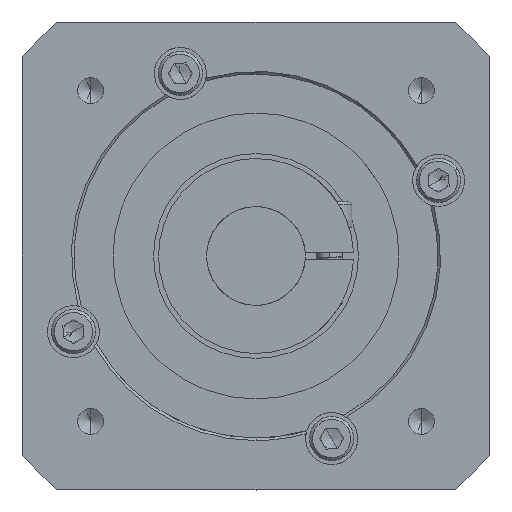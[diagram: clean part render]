
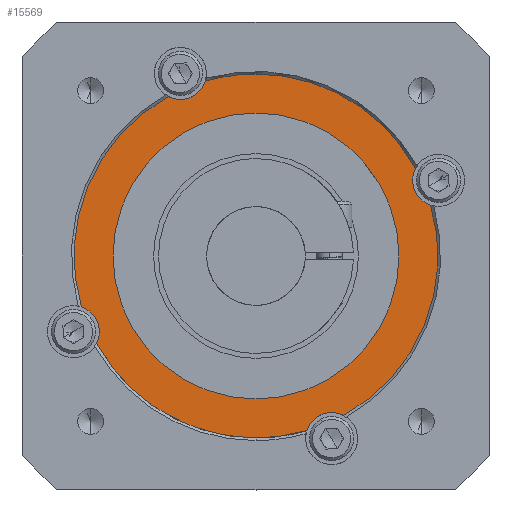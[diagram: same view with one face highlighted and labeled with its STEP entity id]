
A CAD part, front view. The second image highlights one B-rep face of the part: STEP entity #15569.
In plain terms, the highlighted planar face has unit normal (0, -1, 0).
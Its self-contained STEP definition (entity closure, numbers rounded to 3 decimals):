
#87 = EDGE_CURVE ( 'NONE', #16349, #16376, #7423, .T. ) ;
#5128 = CARTESIAN_POINT ( 'NONE',  ( 33.608, 6., 9.772 ) ) ;
#5132 = CARTESIAN_POINT ( 'NONE',  ( 9.772, 6., -33.608 ) ) ;
#5152 = DIRECTION ( 'NONE',  ( 0., 0., -1. ) ) ;
#5153 = DIRECTION ( 'NONE',  ( 0., -1., 0. ) ) ;
#5155 = CIRCLE ( 'NONE', #5176, 5. ) ;
#5162 = CARTESIAN_POINT ( 'NONE',  ( 35.107, 6., 14.542 ) ) ;
#5171 = CARTESIAN_POINT ( 'NONE',  ( 30.674, 6., 16.855 ) ) ;
#5176 = AXIS2_PLACEMENT_3D ( 'NONE', #5162, #5153, #5152 ) ;
#5177 = CARTESIAN_POINT ( 'NONE',  ( 14.542, 6., -30.107 ) ) ;
#5195 = CARTESIAN_POINT ( 'NONE',  ( 14.542, 6., -35.107 ) ) ;
#5229 = DIRECTION ( 'NONE',  ( 0., 0., -1. ) ) ;
#5230 = DIRECTION ( 'NONE',  ( 0., -1., 0. ) ) ;
#5233 = CIRCLE ( 'NONE', #5241, 5. ) ;
#5241 = AXIS2_PLACEMENT_3D ( 'NONE', #5195, #5230, #5229 ) ;
#7415 = DIRECTION ( 'NONE',  ( 0., 0., 1. ) ) ;
#7416 = DIRECTION ( 'NONE',  ( 0., 1., 0. ) ) ;
#7417 = CARTESIAN_POINT ( 'NONE',  ( 0., 6., 0. ) ) ;
#7418 = AXIS2_PLACEMENT_3D ( 'NONE', #7417, #7416, #7415 ) ;
#7423 = CIRCLE ( 'NONE', #7418, 27.5 ) ;
#8657 = EDGE_CURVE ( 'NONE', #8742, #8747, #17607, .T. ) ;
#8742 = VERTEX_POINT ( 'NONE', #17698 ) ;
#8747 = VERTEX_POINT ( 'NONE', #17686 ) ;
#10713 = CARTESIAN_POINT ( 'NONE',  ( 0., 6., 0. ) ) ;
#10715 = CIRCLE ( 'NONE', #10724, 35. ) ;
#10724 = AXIS2_PLACEMENT_3D ( 'NONE', #10713, #10772, #10771 ) ;
#10747 = CARTESIAN_POINT ( 'NONE',  ( 0., 6., 35. ) ) ;
#10771 = DIRECTION ( 'NONE',  ( 0., 0., 1. ) ) ;
#10772 = DIRECTION ( 'NONE',  ( 0., 1., 0. ) ) ;
#11084 = CIRCLE ( 'NONE', #11092, 35. ) ;
#11090 = DIRECTION ( 'NONE',  ( 0., 1., 0. ) ) ;
#11091 = CARTESIAN_POINT ( 'NONE',  ( 0., 6., 0. ) ) ;
#11092 = AXIS2_PLACEMENT_3D ( 'NONE', #11091, #11090, #11096 ) ;
#11096 = DIRECTION ( 'NONE',  ( 0., 0., 1. ) ) ;
#11097 = CARTESIAN_POINT ( 'NONE',  ( -9.772, 6., 33.608 ) ) ;
#11130 = DIRECTION ( 'NONE',  ( 0., 0., 1. ) ) ;
#11131 = AXIS2_PLACEMENT_3D ( 'NONE', #11146, #11138, #11130 ) ;
#11138 = DIRECTION ( 'NONE',  ( 0., 1., 0. ) ) ;
#11146 = CARTESIAN_POINT ( 'NONE',  ( 0., 6., 0. ) ) ;
#11148 = CIRCLE ( 'NONE', #11131, 35. ) ;
#11151 = CARTESIAN_POINT ( 'NONE',  ( 16.855, 6., -30.674 ) ) ;
#11196 = CARTESIAN_POINT ( 'NONE',  ( -30.674, 6., -16.855 ) ) ;
#11226 = DIRECTION ( 'NONE',  ( 0., 0., 1. ) ) ;
#11227 = DIRECTION ( 'NONE',  ( 0., 1., 0. ) ) ;
#11233 = AXIS2_PLACEMENT_3D ( 'NONE', #11237, #11227, #11226 ) ;
#11234 = CIRCLE ( 'NONE', #11233, 35. ) ;
#11237 = CARTESIAN_POINT ( 'NONE',  ( 0., 6., 0. ) ) ;
#11596 = FACE_BOUND ( 'NONE', #15597, .T. ) ;
#11598 = FACE_OUTER_BOUND ( 'NONE', #15345, .T. ) ;
#11812 = CIRCLE ( 'NONE', #11830, 5. ) ;
#11830 = AXIS2_PLACEMENT_3D ( 'NONE', #11890, #11838, #11884 ) ;
#11838 = DIRECTION ( 'NONE',  ( 0., -1., 0. ) ) ;
#11884 = DIRECTION ( 'NONE',  ( 0., 0., -1. ) ) ;
#11890 = CARTESIAN_POINT ( 'NONE',  ( -35.107, 6., -14.542 ) ) ;
#11901 = DIRECTION ( 'NONE',  ( 0., 1., 0. ) ) ;
#11902 = CARTESIAN_POINT ( 'NONE',  ( 0., 6., 0. ) ) ;
#11910 = CARTESIAN_POINT ( 'NONE',  ( -14.542, 6., 35.107 ) ) ;
#11911 = CIRCLE ( 'NONE', #11927, 5. ) ;
#11912 = AXIS2_PLACEMENT_3D ( 'NONE', #11902, #11901, #11955 ) ;
#11913 = CIRCLE ( 'NONE', #11912, 35. ) ;
#11914 = CIRCLE ( 'NONE', #11948, 27.5 ) ;
#11915 = CARTESIAN_POINT ( 'NONE',  ( -33.608, 6., -9.772 ) ) ;
#11916 = DIRECTION ( 'NONE',  ( 0., 0., -1. ) ) ;
#11917 = DIRECTION ( 'NONE',  ( 0., -1., 0. ) ) ;
#11918 = CARTESIAN_POINT ( 'NONE',  ( -35., 6., 0. ) ) ;
#11919 = AXIS2_PLACEMENT_3D ( 'NONE', #11918, #11917, #11916 ) ;
#11920 = PLANE ( 'NONE',  #11919 ) ;
#11924 = DIRECTION ( 'NONE',  ( 0., 0., -1. ) ) ;
#11925 = DIRECTION ( 'NONE',  ( 0., -1., 0. ) ) ;
#11926 = CARTESIAN_POINT ( 'NONE',  ( 14.542, 6., -35.107 ) ) ;
#11927 = AXIS2_PLACEMENT_3D ( 'NONE', #11926, #11925, #11924 ) ;
#11931 = DIRECTION ( 'NONE',  ( 0., 0., 1. ) ) ;
#11932 = DIRECTION ( 'NONE',  ( 0., 1., 0. ) ) ;
#11947 = CARTESIAN_POINT ( 'NONE',  ( 0., 6., 0. ) ) ;
#11948 = AXIS2_PLACEMENT_3D ( 'NONE', #11947, #11932, #11931 ) ;
#11950 = DIRECTION ( 'NONE',  ( 0., 0., -1. ) ) ;
#11951 = DIRECTION ( 'NONE',  ( 0., -1., 0. ) ) ;
#11952 = AXIS2_PLACEMENT_3D ( 'NONE', #11910, #11951, #11950 ) ;
#11953 = CIRCLE ( 'NONE', #11952, 5. ) ;
#11955 = DIRECTION ( 'NONE',  ( 0., 0., 1. ) ) ;
#12266 = CARTESIAN_POINT ( 'NONE',  ( 0., 6., 27.5 ) ) ;
#12270 = CARTESIAN_POINT ( 'NONE',  ( 0., 6., -27.5 ) ) ;
#14044 = VERTEX_POINT ( 'NONE', #5128 ) ;
#14045 = VERTEX_POINT ( 'NONE', #5132 ) ;
#14059 = VERTEX_POINT ( 'NONE', #5177 ) ;
#14060 = VERTEX_POINT ( 'NONE', #5171 ) ;
#14070 = EDGE_CURVE ( 'NONE', #14060, #14044, #5155, .T. ) ;
#14091 = EDGE_CURVE ( 'NONE', #14059, #14045, #5233, .T. ) ;
#14948 = VERTEX_POINT ( 'NONE', #10747 ) ;
#14962 = EDGE_CURVE ( 'NONE', #14948, #14060, #10715, .T. ) ;
#15130 = VERTEX_POINT ( 'NONE', #11097 ) ;
#15144 = EDGE_CURVE ( 'NONE', #14044, #15145, #11084, .T. ) ;
#15145 = VERTEX_POINT ( 'NONE', #11151 ) ;
#15149 = EDGE_CURVE ( 'NONE', #15130, #14948, #11148, .T. ) ;
#15182 = VERTEX_POINT ( 'NONE', #11196 ) ;
#15189 = EDGE_CURVE ( 'NONE', #14045, #15182, #11234, .T. ) ;
#15345 = EDGE_LOOP ( 'NONE', ( #15599, #15587, #15589, #15577, #15592, #15581, #15530, #15593, #15594, #15595, #15631 ) ) ;
#15530 = ORIENTED_EDGE ( 'NONE', *, *, #15144, .F. ) ;
#15561 = EDGE_CURVE ( 'NONE', #15182, #15575, #11812, .T. ) ;
#15569 = ADVANCED_FACE ( 'NONE', ( #11598, #11596 ), #11920, .T. ) ;
#15575 = VERTEX_POINT ( 'NONE', #11915 ) ;
#15577 = ORIENTED_EDGE ( 'NONE', *, *, #15189, .F. ) ;
#15581 = ORIENTED_EDGE ( 'NONE', *, *, #15598, .F. ) ;
#15582 = EDGE_CURVE ( 'NONE', #15575, #8742, #11913, .T. ) ;
#15586 = EDGE_CURVE ( 'NONE', #8747, #15130, #11953, .T. ) ;
#15587 = ORIENTED_EDGE ( 'NONE', *, *, #15582, .F. ) ;
#15589 = ORIENTED_EDGE ( 'NONE', *, *, #15561, .F. ) ;
#15592 = ORIENTED_EDGE ( 'NONE', *, *, #14091, .F. ) ;
#15593 = ORIENTED_EDGE ( 'NONE', *, *, #14070, .F. ) ;
#15594 = ORIENTED_EDGE ( 'NONE', *, *, #14962, .F. ) ;
#15595 = ORIENTED_EDGE ( 'NONE', *, *, #15149, .F. ) ;
#15596 = EDGE_CURVE ( 'NONE', #16376, #16349, #11914, .T. ) ;
#15597 = EDGE_LOOP ( 'NONE', ( #15627, #15621 ) ) ;
#15598 = EDGE_CURVE ( 'NONE', #15145, #14059, #11911, .T. ) ;
#15599 = ORIENTED_EDGE ( 'NONE', *, *, #8657, .F. ) ;
#15621 = ORIENTED_EDGE ( 'NONE', *, *, #87, .T. ) ;
#15627 = ORIENTED_EDGE ( 'NONE', *, *, #15596, .T. ) ;
#15631 = ORIENTED_EDGE ( 'NONE', *, *, #15586, .F. ) ;
#16349 = VERTEX_POINT ( 'NONE', #12270 ) ;
#16376 = VERTEX_POINT ( 'NONE', #12266 ) ;
#17607 = CIRCLE ( 'NONE', #17608, 5. ) ;
#17608 = AXIS2_PLACEMENT_3D ( 'NONE', #17623, #17622, #17621 ) ;
#17621 = DIRECTION ( 'NONE',  ( 0., 0., -1. ) ) ;
#17622 = DIRECTION ( 'NONE',  ( 0., -1., 0. ) ) ;
#17623 = CARTESIAN_POINT ( 'NONE',  ( -14.542, 6., 35.107 ) ) ;
#17686 = CARTESIAN_POINT ( 'NONE',  ( -14.542, 6., 30.107 ) ) ;
#17698 = CARTESIAN_POINT ( 'NONE',  ( -16.855, 6., 30.674 ) ) ;
